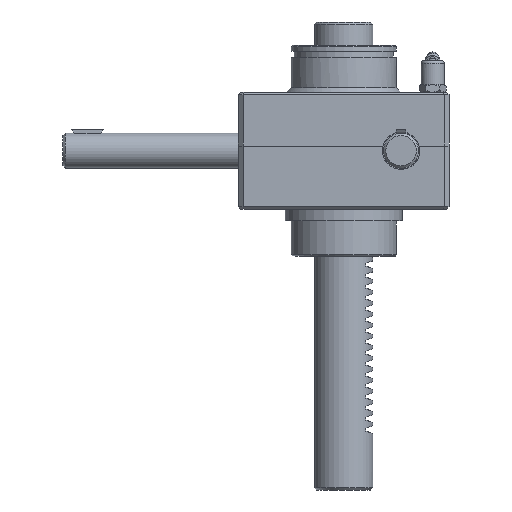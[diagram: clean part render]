
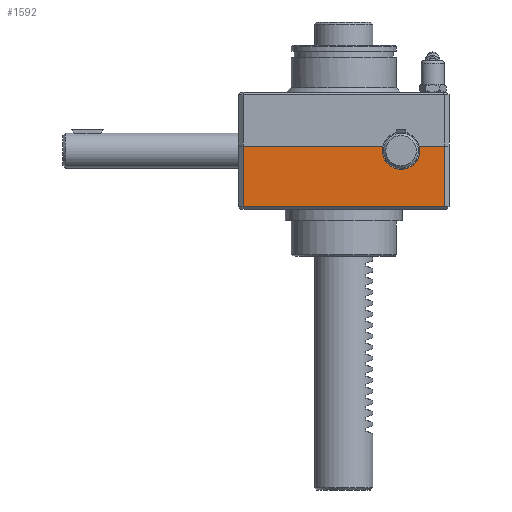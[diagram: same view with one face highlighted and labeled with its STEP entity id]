
A CAD part, front view. The second image highlights one B-rep face of the part: STEP entity #1592.
In plain terms, the highlighted planar face has unit normal (0, -1, 0).
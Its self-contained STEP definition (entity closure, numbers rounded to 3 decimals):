
#1592=ADVANCED_FACE('',(#4435),#4436,.T.);
#4435=FACE_OUTER_BOUND('',#9144,.T.);
#4436=PLANE('',#9145);
#9144=EDGE_LOOP('',(#16223,#16224,#16225,#16226,#16227,#16228));
#9145=AXIS2_PLACEMENT_3D('',#16229,#16230,#16231);
#16223=ORIENTED_EDGE('',*,*,#31619,.F.);
#16224=ORIENTED_EDGE('',*,*,#31354,.T.);
#16225=ORIENTED_EDGE('',*,*,#31370,.T.);
#16226=ORIENTED_EDGE('',*,*,#31614,.F.);
#16227=ORIENTED_EDGE('',*,*,#31592,.F.);
#16228=ORIENTED_EDGE('',*,*,#31609,.F.);
#16229=CARTESIAN_POINT('',(45.0,-45.0,0.0));
#16230=DIRECTION('',(0.,-1.0,0.));
#16231=DIRECTION('',(0.0,0.,-1.0));
#31354=EDGE_CURVE('',#37844,#37845,#37846,.T.);
#31370=EDGE_CURVE('',#37845,#37855,#37876,.T.);
#31592=EDGE_CURVE('',#38263,#38265,#38266,.T.);
#31609=EDGE_CURVE('',#38286,#38263,#38288,.T.);
#31614=EDGE_CURVE('',#38265,#37855,#38294,.T.);
#31619=EDGE_CURVE('',#37844,#38286,#38300,.T.);
#37844=VERTEX_POINT('',#48981);
#37845=VERTEX_POINT('',#48982);
#37846=LINE('',#48983,#48984);
#37855=VERTEX_POINT('',#48997);
#37876=LINE('',#49025,#49026);
#38263=VERTEX_POINT('',#49583);
#38265=VERTEX_POINT('',#49586);
#38266=LINE('',#49587,#49588);
#38286=VERTEX_POINT('',#49616);
#38288=CIRCLE('',#49619,8.0);
#38294=LINE('',#49627,#49628);
#38300=LINE('',#49636,#49637);
#48981=CARTESIAN_POINT('',(-43.0,-45.0,0.));
#48982=CARTESIAN_POINT('',(-43.0,-45.0,-26.0));
#48983=CARTESIAN_POINT('',(-43.0,-45.0,-13.5));
#48984=VECTOR('',#63448,1.0);
#48997=CARTESIAN_POINT('',(43.0,-45.0,-26.0));
#49025=CARTESIAN_POINT('',(0.0,-45.0,-26.0));
#49026=VECTOR('',#63472,1.0);
#49583=CARTESIAN_POINT('',(32.246,-45.0,0.));
#49586=CARTESIAN_POINT('',(43.0,-45.0,0.0));
#49587=CARTESIAN_POINT('',(37.623,-45.0,0.));
#49588=VECTOR('',#63824,1.0);
#49616=CARTESIAN_POINT('',(16.754,-45.0,0.));
#49619=AXIS2_PLACEMENT_3D('',#63849,#63850,#63851);
#49627=CARTESIAN_POINT('',(43.0,-45.0,-13.5));
#49628=VECTOR('',#63860,1.0);
#49636=CARTESIAN_POINT('',(-13.123,-45.0,0.));
#49637=VECTOR('',#63869,1.0);
#63448=DIRECTION('',(0.,0.0,-1.0));
#63472=DIRECTION('',(1.0,0.0,0.));
#63824=DIRECTION('',(1.0,0.0,0.));
#63849=CARTESIAN_POINT('',(24.5,-45.0,-2.0));
#63850=DIRECTION('',(0.,-1.0,0.));
#63851=DIRECTION('',(1.0,0.,0.));
#63860=DIRECTION('',(0.,0.,-1.0));
#63869=DIRECTION('',(1.0,0.0,0.));
